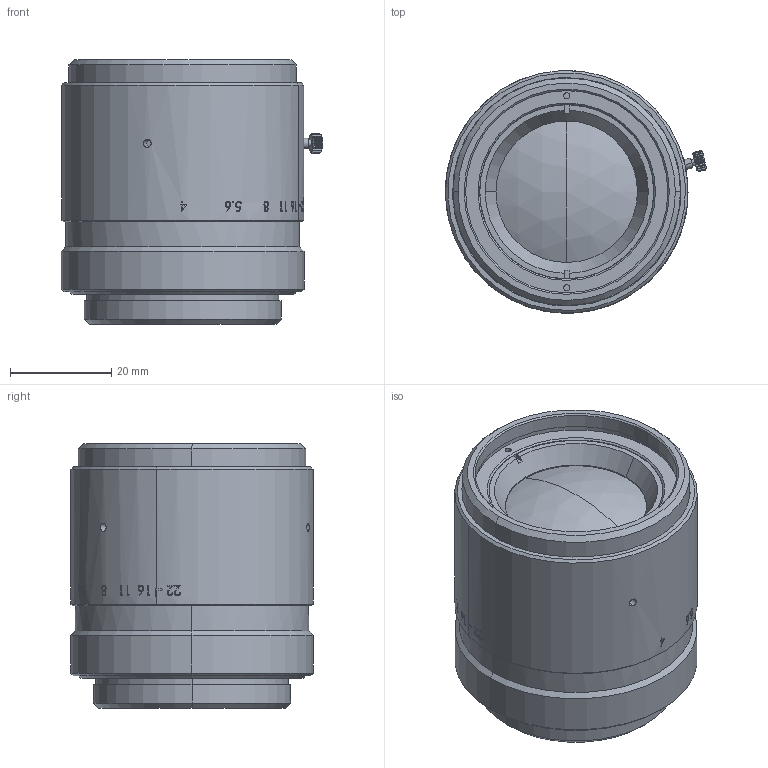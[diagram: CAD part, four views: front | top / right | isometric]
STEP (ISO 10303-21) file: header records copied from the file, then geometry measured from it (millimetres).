
FILE_DESCRIPTION (( 'STEP AP203' ), '1' );
FILE_NAME ('3d_C-ML-8040-62M39_a001.STEP', '2023-10-13T04:56:17', ( '' ), ( '' ), 'SwSTEP 2.0', 'SolidWorks 2020', '' );
FILE_SCHEMA (( 'CONFIG_CONTROL_DESIGN' ));
Length unit declared in the file: millimetre
Products named in the file (1): 3d_C-ML-8040-62M39_a001
Bounding box: 51.66 x 48 x 52.26 mm (x, y, z)
Volume: 76468.5 mm3; surface area: 14129.7 mm2
Topology: 1 solids, 1 shells, 555 faces, 1470 edges, 968 vertices
Faces by surface type: cylinder 176, bspline 168, plane 163, cone 44, sphere 4
Entity records: 32897 total; most frequent: CARTESIAN_POINT 20794, ORIENTED_EDGE 2940, DIRECTION 1774, EDGE_CURVE 1470, VERTEX_POINT 968, B_SPLINE_CURVE_WITH_KNOTS 780, AXIS2_PLACEMENT_3D 696, EDGE_LOOP 606
